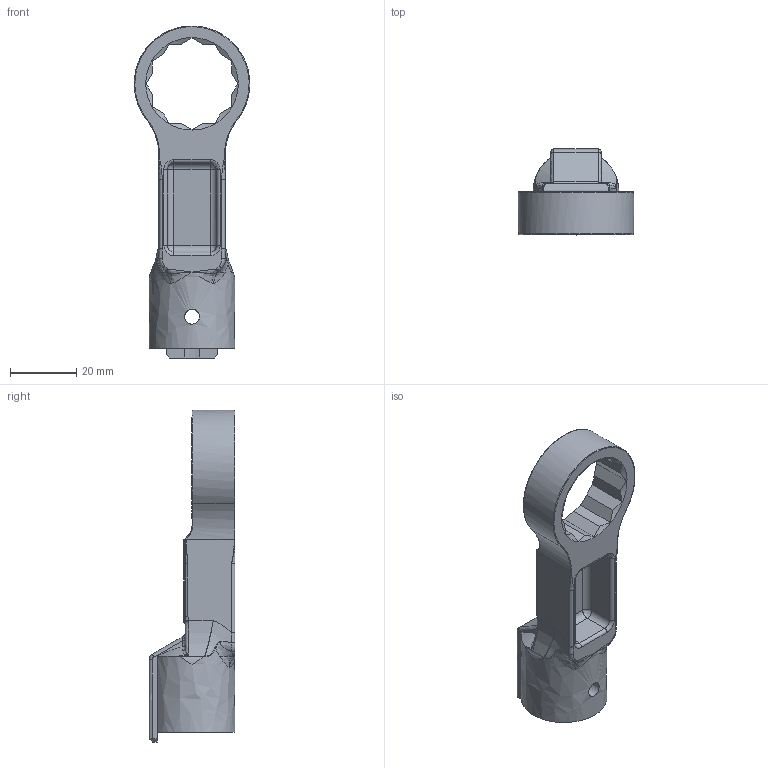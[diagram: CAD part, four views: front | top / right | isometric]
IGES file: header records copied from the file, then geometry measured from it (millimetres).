
Global section: file name: RH19DX24; native system: Autodesk Inventor 2016; preprocessor: unknown; author: q543; date: 20151110.165630; units: millimetre
Bounding box: 34.98 x 26 x 100.49 mm (x, y, z)
Volume: 20399.6 mm3; surface area: 10767.4 mm2
Topology: 1 solids, 1 shells, 219 faces, 555 edges, 318 vertices
Faces by surface type: bspline 219
